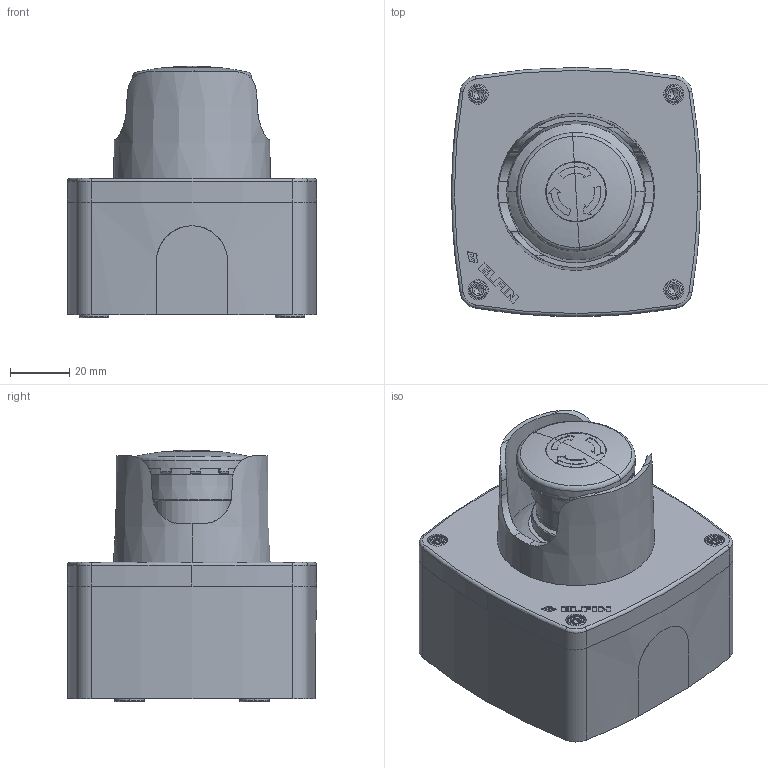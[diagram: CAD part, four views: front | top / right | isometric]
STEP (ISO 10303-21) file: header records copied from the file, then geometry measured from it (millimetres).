
FILE_DESCRIPTION (( 'STEP AP214' ), '1' );
FILE_NAME ('080F0808-8GF4AP.STEP', '2026-03-30T08:25:47', ( '' ), ( '' ), 'SwSTEP 2.0', 'SolidWorks 2025', '' );
FILE_SCHEMA (( 'AUTOMOTIVE_DESIGN' ));
Length unit declared in the file: millimetre
Products named in the file (17): 020G; 1-020PTFAR; 020GE01; 6-020PTFAR; 3-020PTFAR; 10209 Vite TC ø3,5x24 Torx per plastica; 225325 - WEB; 224073 - WEB; 020E01; 4-020PTFAR; 020PTFAR; 225324 - WEB; 5-020PTFAR; 226010; 080F0808-8GF4AP; 020GE; 2-020PTFAR
Assembly tree (19 placements, depth 4):
  080F0808-8GF4AP
    225324 - WEB
    224073 - WEB
    225325 - WEB
    10209 Vite TC ø3,5x24 Torx per plastica  x4
    020PTFAR
      1-020PTFAR
      2-020PTFAR
      3-020PTFAR
      4-020PTFAR
      5-020PTFAR
      6-020PTFAR
    020GE01
      020GE
        020G
        226010
      020E01
Bounding box: 84 x 84 x 84.8 mm (x, y, z)
Volume: 169743.2 mm3; surface area: 102365.8 mm2
Topology: 19 solids, 19 shells, 1197 faces, 3101 edges, 1980 vertices
Faces by surface type: plane 514, cylinder 473, torus 114, cone 66, bspline 20, sphere 10
Entity records: 38945 total; most frequent: CARTESIAN_POINT 7388, DIRECTION 5455, ORIENTED_EDGE 5150, EDGE_CURVE 2575, AXIS2_PLACEMENT_3D 2051, VERTEX_POINT 1653, VECTOR 1353, LINE 1353
